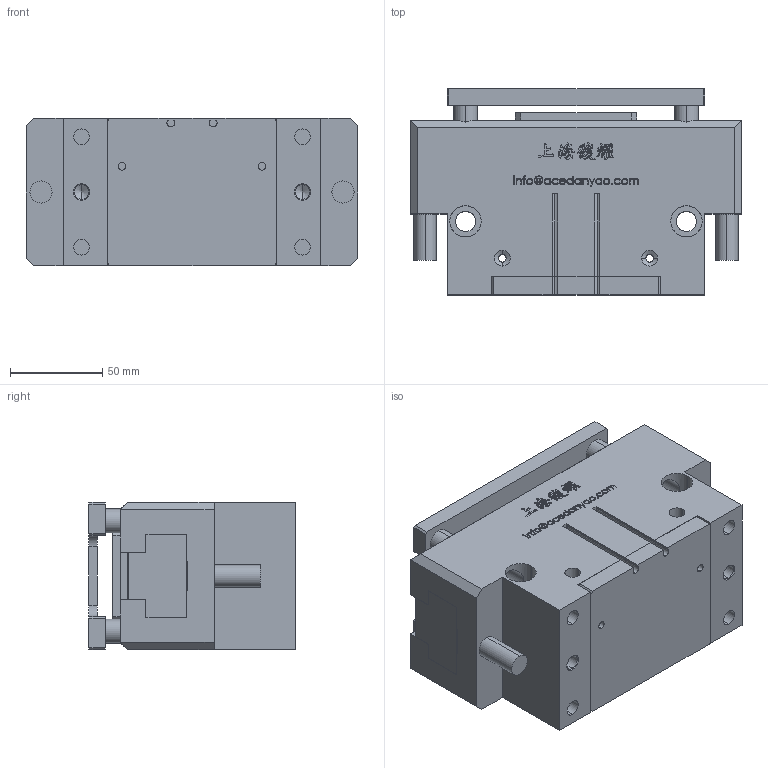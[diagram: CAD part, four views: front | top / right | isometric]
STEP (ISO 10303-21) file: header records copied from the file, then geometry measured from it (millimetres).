
FILE_DESCRIPTION (( 'STEP AP203' ), '1' );
FILE_NAME ('OPP2-180-C1-P-原始檔-組合-W106.04.19.STEP', '2017-04-19T04:00:43', ( 'DanyaoCAD' ), ( '' ), 'SwSTEP 2.0', 'SolidWorks 2016', '' );
FILE_SCHEMA (( 'CONFIG_CONTROL_DESIGN' ));
Length unit declared in the file: millimetre
Products named in the file (6): Griffa; Coperchio; Fondello; Piattello; Corpo; OPP2-180-C1-P-原始檔-組合-W106.04.19
Assembly tree (6 placements, depth 2):
  OPP2-180-C1-P-原始檔-組合-W106.04.19
    Griffa  x2
    Coperchio
    Fondello
    Piattello
    Corpo
Bounding box: 180 x 112 x 80 mm (x, y, z)
Volume: 1164943.2 mm3; surface area: 199905.1 mm2
Topology: 6 solids, 6 shells, 1109 faces, 3078 edges, 2024 vertices
Faces by surface type: bspline 640, plane 301, cylinder 120, cone 48
Entity records: 51784 total; most frequent: CARTESIAN_POINT 27883, ORIENTED_EDGE 5944, EDGE_CURVE 2972, DIRECTION 2790, VERTEX_POINT 1970, VECTOR 1420, LINE 1420, B_SPLINE_CURVE_WITH_KNOTS 1304
